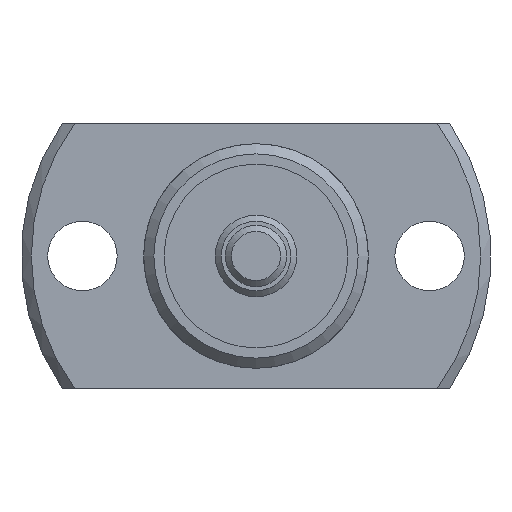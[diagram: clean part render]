
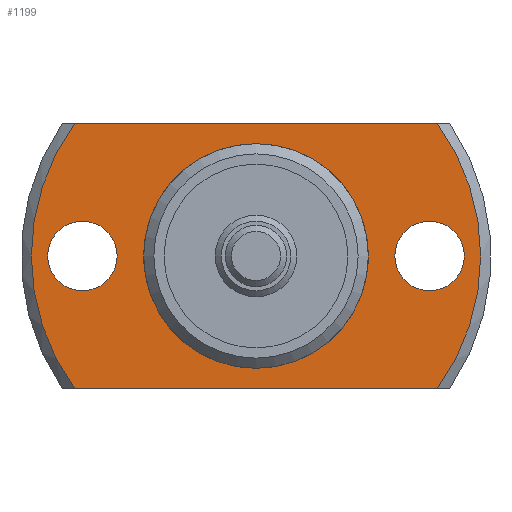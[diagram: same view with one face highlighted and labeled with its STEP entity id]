
A CAD part, left-side view. The second image highlights one B-rep face of the part: STEP entity #1199.
In plain terms, the highlighted planar face has unit normal (-1, 0, 0).
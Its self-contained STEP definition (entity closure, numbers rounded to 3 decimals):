
#109=LINE('',#2061,#175);
#110=LINE('',#2065,#176);
#175=VECTOR('',#1646,1000.);
#176=VECTOR('',#1649,1000.);
#345=ORIENTED_EDGE('',*,*,#621,.T.);
#346=ORIENTED_EDGE('',*,*,#622,.T.);
#347=ORIENTED_EDGE('',*,*,#610,.F.);
#348=ORIENTED_EDGE('',*,*,#623,.T.);
#349=ORIENTED_EDGE('',*,*,#624,.F.);
#350=ORIENTED_EDGE('',*,*,#625,.T.);
#351=ORIENTED_EDGE('',*,*,#604,.T.);
#604=EDGE_CURVE('',#753,#753,#846,.T.);
#610=EDGE_CURVE('',#758,#759,#849,.T.);
#621=EDGE_CURVE('',#768,#768,#855,.T.);
#622=EDGE_CURVE('',#769,#769,#856,.T.);
#623=EDGE_CURVE('',#758,#770,#109,.T.);
#624=EDGE_CURVE('',#771,#770,#857,.T.);
#625=EDGE_CURVE('',#771,#759,#110,.T.);
#753=VERTEX_POINT('',#2008);
#758=VERTEX_POINT('',#2022);
#759=VERTEX_POINT('',#2024);
#768=VERTEX_POINT('',#2058);
#769=VERTEX_POINT('',#2060);
#770=VERTEX_POINT('',#2062);
#771=VERTEX_POINT('',#2064);
#846=CIRCLE('',#1344,5.3);
#849=CIRCLE('',#1348,11.);
#855=CIRCLE('',#1359,1.7);
#856=CIRCLE('',#1360,1.7);
#857=CIRCLE('',#1361,11.);
#943=EDGE_LOOP('',(#345));
#944=EDGE_LOOP('',(#346));
#945=EDGE_LOOP('',(#347,#348,#349,#350));
#946=EDGE_LOOP('',(#351));
#1063=FACE_BOUND('',#943,.T.);
#1064=FACE_BOUND('',#944,.T.);
#1065=FACE_BOUND('',#945,.T.);
#1066=FACE_BOUND('',#946,.T.);
#1133=PLANE('',#1358);
#1199=ADVANCED_FACE('',(#1063,#1064,#1065,#1066),#1133,.F.);
#1344=AXIS2_PLACEMENT_3D('',#2007,#1608,#1609);
#1348=AXIS2_PLACEMENT_3D('',#2023,#1618,#1619);
#1358=AXIS2_PLACEMENT_3D('',#2056,#1640,#1641);
#1359=AXIS2_PLACEMENT_3D('',#2057,#1642,#1643);
#1360=AXIS2_PLACEMENT_3D('',#2059,#1644,#1645);
#1361=AXIS2_PLACEMENT_3D('',#2063,#1647,#1648);
#1608=DIRECTION('',(1.,0.,0.));
#1609=DIRECTION('',(0.,0.,-1.));
#1618=DIRECTION('',(1.,0.,0.));
#1619=DIRECTION('',(0.,0.,-1.));
#1640=DIRECTION('',(1.,0.,0.));
#1641=DIRECTION('',(0.,0.,-1.));
#1642=DIRECTION('',(1.,0.,0.));
#1643=DIRECTION('',(0.,0.,-1.));
#1644=DIRECTION('',(1.,0.,0.));
#1645=DIRECTION('',(0.,0.,-1.));
#1646=DIRECTION('',(0.,-1.,0.));
#1647=DIRECTION('',(1.,0.,0.));
#1648=DIRECTION('',(0.,0.,-1.));
#1649=DIRECTION('',(0.,1.,0.));
#2007=CARTESIAN_POINT('',(15.,0.,0.));
#2008=CARTESIAN_POINT('',(15.,0.,-5.3));
#2022=CARTESIAN_POINT('',(15.,8.874,-6.5));
#2023=CARTESIAN_POINT('',(15.,0.,0.));
#2024=CARTESIAN_POINT('',(15.,8.874,6.5));
#2056=CARTESIAN_POINT('',(15.,5.3,0.));
#2057=CARTESIAN_POINT('',(15.,-8.5,0.));
#2058=CARTESIAN_POINT('',(15.,-8.5,-1.7));
#2059=CARTESIAN_POINT('',(15.,8.5,0.));
#2060=CARTESIAN_POINT('',(15.,8.5,-1.7));
#2061=CARTESIAN_POINT('',(15.,5.3,-6.5));
#2062=CARTESIAN_POINT('',(15.,-8.874,-6.5));
#2063=CARTESIAN_POINT('',(15.,0.,0.));
#2064=CARTESIAN_POINT('',(15.,-8.874,6.5));
#2065=CARTESIAN_POINT('',(15.,5.3,6.5));
